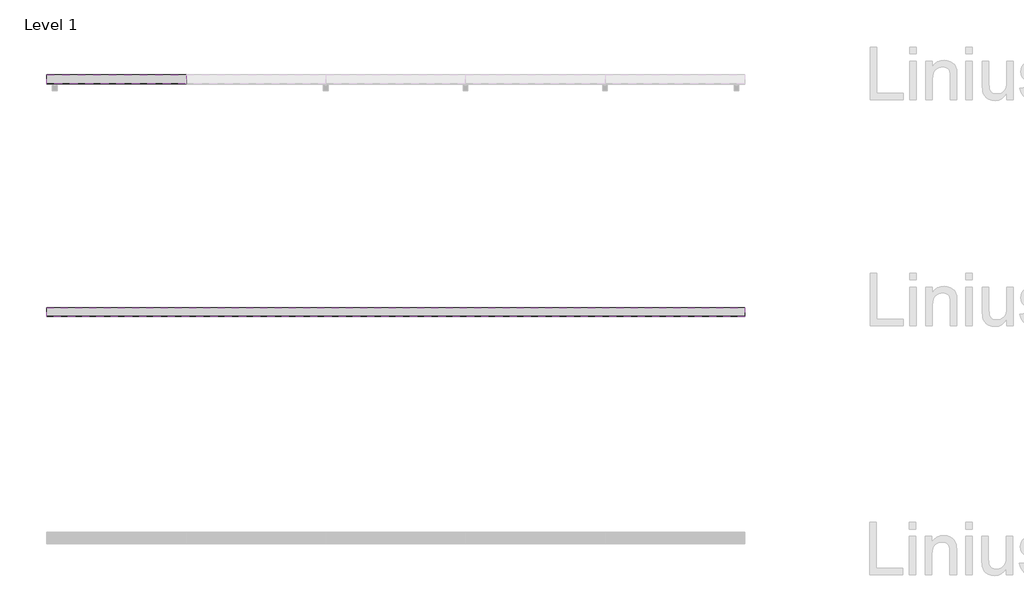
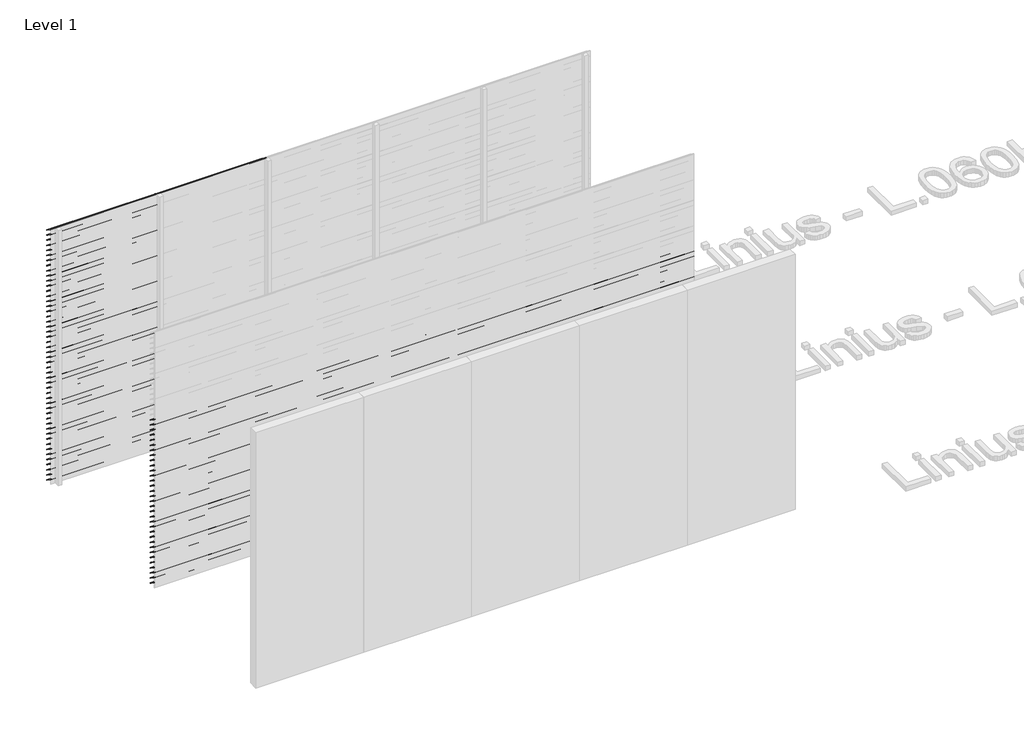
# One storey, part 66 of 153: 85 proxies.
"""IFC4 building model written with IfcOpenShell, lengths in millimetres."""

import ifcopenshell
import ifcopenshell.guid

model = None  # the IFC model being written
_history = None  # IfcOwnerHistory: only IFC2X3 demands one
_inside = {}  # id of a spatial element -> (the spatial element, [elements in it])
_under = {}  # id of a project, library or spatial element -> (it, [spatial elements below it])
_declared = {}  # id of a project -> (the project, [libraries it declares])
_typed = {}  # id of a type object -> (the type object, [elements of that type])
_made_of = {}  # id of a material, layer set ... -> (it, [elements and type objects made of it])


def new_model(schema):
    """Start an empty IFC model of exactly this schema.

    Asked for "IFC4X3", IfcOpenShell would pick the latest addendum, in which some entities
    have other attributes; the version numbers below select the first issue.
    IFC2X3 requires an IfcOwnerHistory on every rooted entity: one is made here for all.
    """
    global model, _history
    if schema == "IFC4X3":
        model = ifcopenshell.file(schema_version=(4, 3, 0, 0))
    else:
        model = ifcopenshell.file(schema=schema)
    _inside.clear()
    _under.clear()
    _declared.clear()
    _typed.clear()
    _made_of.clear()
    _history = None
    if model.schema == "IFC2X3":
        org = make("IfcOrganization", Name="unknown")
        user = make(
            "IfcPersonAndOrganization",
            ThePerson=make("IfcPerson", FamilyName="unknown"),
            TheOrganization=org,
        )
        app = make(
            "IfcApplication",
            ApplicationDeveloper=org,
            Version="unknown",
            ApplicationFullName="unknown",
            ApplicationIdentifier="unknown",
        )
        _history = make(
            "IfcOwnerHistory",
            OwningUser=user,
            OwningApplication=app,
            ChangeAction="ADDED",
            CreationDate=0,
        )
    return model


def make(cls, **values):
    """One entity of the class cls with the attributes given. An attribute that is None is left unset."""
    return model.create_entity(
        cls, **{name: value for name, value in values.items() if value is not None}
    )


def rooted(cls, **values):
    """An entity with a GlobalId (a new one), such as an element, a storey or a relation."""
    return make(cls, GlobalId=ifcopenshell.guid.new(), OwnerHistory=_history, **values)


def si_unit(unit_type, name, prefix=None):
    """IfcSIUnit, for example si_unit("LENGTHUNIT", "METRE", prefix="MILLI")."""
    return make("IfcSIUnit", UnitType=unit_type, Prefix=prefix, Name=name)


def assignment(units):
    """IfcUnitAssignment: the units of a project."""
    return None if units is None else make("IfcUnitAssignment", Units=units)


def point(xyz):
    """IfcCartesianPoint."""
    return None if xyz is None else make("IfcCartesianPoint", Coordinates=xyz)


def direction(xyz):
    """IfcDirection."""
    return None if xyz is None else make("IfcDirection", DirectionRatios=xyz)


def frame(location, z_axis=None, x_axis=None):
    """IfcAxis2Placement3D, a coordinate frame: its origin and axes. An axis left out is left unset."""
    return make(
        "IfcAxis2Placement3D",
        Location=point(location),
        Axis=direction(z_axis),
        RefDirection=direction(x_axis),
    )


def origin():
    """The frame at (0, 0, 0) with its axes left unset."""
    return frame((0.0, 0.0, 0.0))


def place(relative_to, where):
    """IfcLocalPlacement: puts the frame where relative to a parent placement (None: the world)."""
    return make(
        "IfcLocalPlacement", PlacementRelTo=relative_to, RelativePlacement=where
    )


def context(
    kind, dimensions, precision=None, world=None, true_north=None, identifier=None
):
    """IfcGeometricRepresentationContext, for example the 3D "Model" context."""
    return make(
        "IfcGeometricRepresentationContext",
        ContextIdentifier=identifier,
        ContextType=kind,
        CoordinateSpaceDimension=dimensions,
        Precision=precision,
        WorldCoordinateSystem=world,
        TrueNorth=true_north,
    )


def project(units=None, contexts=None):
    """IfcProject with its units and contexts."""
    return rooted(
        "IfcProject",
        Name="project",
        RepresentationContexts=contexts,
        UnitsInContext=assignment(units),
    )


def spatial(cls, under=None, at=None, **own):
    """A site, building, storey or space (cls), placed at a placement, below another one or the project."""
    s = rooted(cls, ObjectPlacement=at, **own)
    if under is not None:
        _under.setdefault(under.id(), (under, []))[1].append(s)
    return s


def polyline(points):
    """IfcPolyline through the points."""
    return make("IfcPolyline", Points=[point(p) for p in points])


def outline(outer, holes=None, kind="AREA"):
    """IfcArbitraryClosedProfileDef: a profile drawn as a closed curve; with holes, ...WithVoids."""
    if holes is None:
        return make("IfcArbitraryClosedProfileDef", ProfileType=kind, OuterCurve=outer)
    return make(
        "IfcArbitraryProfileDefWithVoids",
        ProfileType=kind,
        OuterCurve=outer,
        InnerCurves=holes,
    )


def extrude(swept, where, along, depth):
    """IfcExtrudedAreaSolid: the profile swept, set in the frame where, extruded along a direction by depth."""
    return make(
        "IfcExtrudedAreaSolid",
        SweptArea=swept,
        Position=where,
        ExtrudedDirection=direction(along),
        Depth=depth,
    )


def shape(context_of_items, identifier, shape_type, items):
    """IfcShapeRepresentation: the items that make up one representation, for example the "Body"."""
    return make(
        "IfcShapeRepresentation",
        ContextOfItems=context_of_items,
        RepresentationIdentifier=identifier,
        RepresentationType=shape_type,
        Items=items,
    )


def made_of(thing, what):
    """Note that an element or type object is made of a material, layer set ...; save() writes the relation."""
    if what is not None:
        _made_of.setdefault(what.id(), (what, []))[1].append(thing)
    return thing


def element(
    cls,
    number,
    at=None,
    inside=None,
    cuts=None,
    type_object=None,
    material=None,
    context=None,
    identifier="Body",
    shape_type=None,
    held_by="IfcProductDefinitionShape",
    body=None,
    shapes=None,
    **own,
):
    """One element of the class cls, such as IfcWall. Its Tag is "e" and its number.

    at: its placement. inside: the storey or other place that contains it. cuts: it is an
    opening in that element (IfcRelVoidsElement). A single representation is given by context,
    identifier, shape_type and body (its items); several are given by shapes. held_by: the class
    of the entity that holds the representations. save() writes the other relations.
    """
    e = rooted(cls, Tag="e%d" % number, ObjectPlacement=at, **own)
    if body is not None:
        shapes = [shape(context, identifier, shape_type, body)]
    if shapes is not None:
        e.Representation = make(held_by, Representations=shapes)
    if inside is not None:
        _inside.setdefault(inside.id(), (inside, []))[1].append(e)
    if cuts is not None:
        rooted(
            "IfcRelVoidsElement", RelatingBuildingElement=cuts, RelatedOpeningElement=e
        )
    if type_object is not None:
        _typed.setdefault(type_object.id(), (type_object, []))[1].append(e)
    return made_of(e, material)


def aggregate(whole, parts):
    """IfcRelAggregates: a whole, such as a stair, and the parts it consists of."""
    return rooted("IfcRelAggregates", RelatingObject=whole, RelatedObjects=parts)


def save(model, path):
    """Write the relations noted so far, then the file.

    IfcRelAggregates (storeys below a building ...), IfcRelContainedInSpatialStructure (elements
    in a storey), IfcRelDefinesByType, IfcRelAssociatesMaterial and IfcRelDeclares: one each for
    every whole, place, type object, material and project.
    """
    for whole, parts in _under.values():
        aggregate(whole, parts)
    for where, things in _inside.values():
        rooted(
            "IfcRelContainedInSpatialStructure",
            RelatedElements=things,
            RelatingStructure=where,
        )
    for kind, things in _typed.values():
        rooted("IfcRelDefinesByType", RelatedObjects=things, RelatingType=kind)
    for what, things in _made_of.values():
        rooted("IfcRelAssociatesMaterial", RelatedObjects=things, RelatingMaterial=what)
    for by, libraries in _declared.values():
        rooted("IfcRelDeclares", RelatingContext=by, RelatedDefinitions=libraries)
    model.write(path)


model = new_model("IFC4")

# Units and contexts
model_context = context("Model", 3, world=origin())
ifc_project = project(units=[si_unit("LENGTHUNIT", "METRE", prefix="MILLI")], contexts=[model_context])

# Site, building, storey
site = spatial("IfcSite", under=ifc_project)
building = spatial("IfcBuilding", under=site)
storey = spatial("IfcBuildingStorey", under=building, Name="Level 1", Elevation=0.0)

# Proxies
placement = place(None, origin())
element("IfcBuildingElementProxy", 1, Name="Wall Sweeps", at=placement, inside=storey, context=model_context, shape_type="SweptSolid", body=[
    extrude(outline(polyline([(36561.0540136, 2946.0), (36561.0540136, 2940.0), (36559.8040136, 2940.7216933), (36559.8040136, 2945.2538091), (36483.0540136, 2993.9915103), (36483.0540136, 3000.0), (36484.3040136, 3000.0), (36484.3040136, 2994.7377012), (36561.0540136, 2946.0)])), frame((466.6208097, 0.0, 0.0), z_axis=(1.0, 0.0, 0.0), x_axis=(0.0, 1.0, 0.0)), (0.0, 0.0, 1.0), 1200.0000002),
])
element("IfcBuildingElementProxy", 2, Name="Wall Sweeps", at=placement, inside=storey, context=model_context, shape_type="SweptSolid", body=[
    extrude(outline(polyline([(36561.0540136, 2886.0), (36561.0540136, 2880.0), (36559.8040136, 2880.7216933), (36559.8040136, 2885.2538091), (36483.0540136, 2933.9915103), (36483.0540136, 2940.0), (36484.3040136, 2940.0), (36484.3040136, 2934.7377012), (36561.0540136, 2886.0)])), frame((466.6208097, 0.0, 0.0), z_axis=(1.0, 0.0, 0.0), x_axis=(0.0, 1.0, 0.0)), (0.0, 0.0, 1.0), 1200.0000002),
])
element("IfcBuildingElementProxy", 3, Name="Wall Sweeps", at=placement, inside=storey, context=model_context, shape_type="SweptSolid", body=[
    extrude(outline(polyline([(36561.0540136, 2826.0), (36561.0540136, 2820.0), (36559.8040136, 2820.7216933), (36559.8040136, 2825.2538091), (36483.0540136, 2873.9915103), (36483.0540136, 2880.0), (36484.3040136, 2880.0), (36484.3040136, 2874.7377012), (36561.0540136, 2826.0)])), frame((466.6208097, 0.0, 0.0), z_axis=(1.0, 0.0, 0.0), x_axis=(0.0, 1.0, 0.0)), (0.0, 0.0, 1.0), 1200.0000002),
])
element("IfcBuildingElementProxy", 4, Name="Wall Sweeps", at=placement, inside=storey, context=model_context, shape_type="SweptSolid", body=[
    extrude(outline(polyline([(36561.0540136, 2766.0), (36561.0540136, 2760.0), (36559.8040136, 2760.7216933), (36559.8040136, 2765.2538091), (36483.0540136, 2813.9915103), (36483.0540136, 2820.0), (36484.3040136, 2820.0), (36484.3040136, 2814.7377012), (36561.0540136, 2766.0)])), frame((466.6208097, 0.0, 0.0), z_axis=(1.0, 0.0, 0.0), x_axis=(0.0, 1.0, 0.0)), (0.0, 0.0, 1.0), 1200.0000002),
])
element("IfcBuildingElementProxy", 5, Name="Wall Sweeps", at=placement, inside=storey, context=model_context, shape_type="SweptSolid", body=[
    extrude(outline(polyline([(36561.0540136, 2706.0), (36561.0540136, 2700.0), (36559.8040136, 2700.7216933), (36559.8040136, 2705.2538091), (36483.0540136, 2753.9915103), (36483.0540136, 2760.0), (36484.3040136, 2760.0), (36484.3040136, 2754.7377012), (36561.0540136, 2706.0)])), frame((466.6208097, 0.0, 0.0), z_axis=(1.0, 0.0, 0.0), x_axis=(0.0, 1.0, 0.0)), (0.0, 0.0, 1.0), 1200.0000002),
])
element("IfcBuildingElementProxy", 6, Name="Wall Sweeps", at=placement, inside=storey, context=model_context, shape_type="SweptSolid", body=[
    extrude(outline(polyline([(36561.0540136, 2646.0), (36561.0540136, 2640.0), (36559.8040136, 2640.7216933), (36559.8040136, 2645.2538091), (36483.0540136, 2693.9915103), (36483.0540136, 2700.0), (36484.3040136, 2700.0), (36484.3040136, 2694.7377012), (36561.0540136, 2646.0)])), frame((466.6208097, 0.0, 0.0), z_axis=(1.0, 0.0, 0.0), x_axis=(0.0, 1.0, 0.0)), (0.0, 0.0, 1.0), 1200.0000002),
])
element("IfcBuildingElementProxy", 7, Name="Wall Sweeps", at=placement, inside=storey, context=model_context, shape_type="SweptSolid", body=[
    extrude(outline(polyline([(36561.0540136, 2586.0), (36561.0540136, 2580.0), (36559.8040136, 2580.7216933), (36559.8040136, 2585.2538091), (36483.0540136, 2633.9915103), (36483.0540136, 2640.0), (36484.3040136, 2640.0), (36484.3040136, 2634.7377012), (36561.0540136, 2586.0)])), frame((466.6208097, 0.0, 0.0), z_axis=(1.0, 0.0, 0.0), x_axis=(0.0, 1.0, 0.0)), (0.0, 0.0, 1.0), 1200.0000002),
])
element("IfcBuildingElementProxy", 8, Name="Wall Sweeps", at=placement, inside=storey, context=model_context, shape_type="SweptSolid", body=[
    extrude(outline(polyline([(36561.0540136, 2526.0), (36561.0540136, 2520.0), (36559.8040136, 2520.7216933), (36559.8040136, 2525.2538091), (36483.0540136, 2573.9915103), (36483.0540136, 2580.0), (36484.3040136, 2580.0), (36484.3040136, 2574.7377012), (36561.0540136, 2526.0)])), frame((466.6208097, 0.0, 0.0), z_axis=(1.0, 0.0, 0.0), x_axis=(0.0, 1.0, 0.0)), (0.0, 0.0, 1.0), 1200.0000002),
])
element("IfcBuildingElementProxy", 9, Name="Wall Sweeps", at=placement, inside=storey, context=model_context, shape_type="SweptSolid", body=[
    extrude(outline(polyline([(36561.0540136, 2466.0), (36561.0540136, 2460.0), (36559.8040136, 2460.7216933), (36559.8040136, 2465.2538091), (36483.0540136, 2513.9915103), (36483.0540136, 2520.0), (36484.3040136, 2520.0), (36484.3040136, 2514.7377012), (36561.0540136, 2466.0)])), frame((466.6208097, 0.0, 0.0), z_axis=(1.0, 0.0, 0.0), x_axis=(0.0, 1.0, 0.0)), (0.0, 0.0, 1.0), 1200.0000002),
])
element("IfcBuildingElementProxy", 10, Name="Wall Sweeps", at=placement, inside=storey, context=model_context, shape_type="SweptSolid", body=[
    extrude(outline(polyline([(36561.0540136, 2406.0), (36561.0540136, 2400.0), (36559.8040136, 2400.7216933), (36559.8040136, 2405.2538091), (36483.0540136, 2453.9915103), (36483.0540136, 2460.0), (36484.3040136, 2460.0), (36484.3040136, 2454.7377012), (36561.0540136, 2406.0)])), frame((466.6208097, 0.0, 0.0), z_axis=(1.0, 0.0, 0.0), x_axis=(0.0, 1.0, 0.0)), (0.0, 0.0, 1.0), 1200.0000002),
])
element("IfcBuildingElementProxy", 11, Name="Wall Sweeps", at=placement, inside=storey, context=model_context, shape_type="SweptSolid", body=[
    extrude(outline(polyline([(36561.0540136, 2346.0), (36561.0540136, 2340.0), (36559.8040136, 2340.7216933), (36559.8040136, 2345.2538091), (36483.0540136, 2393.9915103), (36483.0540136, 2400.0), (36484.3040136, 2400.0), (36484.3040136, 2394.7377012), (36561.0540136, 2346.0)])), frame((466.6208097, 0.0, 0.0), z_axis=(1.0, 0.0, 0.0), x_axis=(0.0, 1.0, 0.0)), (0.0, 0.0, 1.0), 1200.0000002),
])
element("IfcBuildingElementProxy", 12, Name="Wall Sweeps", at=placement, inside=storey, context=model_context, shape_type="SweptSolid", body=[
    extrude(outline(polyline([(36561.0540136, 2286.0), (36561.0540136, 2280.0), (36559.8040136, 2280.7216933), (36559.8040136, 2285.2538091), (36483.0540136, 2333.9915103), (36483.0540136, 2340.0), (36484.3040136, 2340.0), (36484.3040136, 2334.7377012), (36561.0540136, 2286.0)])), frame((466.6208097, 0.0, 0.0), z_axis=(1.0, 0.0, 0.0), x_axis=(0.0, 1.0, 0.0)), (0.0, 0.0, 1.0), 1200.0000002),
])
element("IfcBuildingElementProxy", 13, Name="Wall Sweeps", at=placement, inside=storey, context=model_context, shape_type="SweptSolid", body=[
    extrude(outline(polyline([(36561.0540136, 2226.0), (36561.0540136, 2220.0), (36559.8040136, 2220.7216933), (36559.8040136, 2225.2538091), (36483.0540136, 2273.9915103), (36483.0540136, 2280.0), (36484.3040136, 2280.0), (36484.3040136, 2274.7377012), (36561.0540136, 2226.0)])), frame((466.6208097, 0.0, 0.0), z_axis=(1.0, 0.0, 0.0), x_axis=(0.0, 1.0, 0.0)), (0.0, 0.0, 1.0), 1200.0000002),
])
element("IfcBuildingElementProxy", 14, Name="Wall Sweeps", at=placement, inside=storey, context=model_context, shape_type="SweptSolid", body=[
    extrude(outline(polyline([(36561.0540136, 2166.0), (36561.0540136, 2160.0), (36559.8040136, 2160.7216933), (36559.8040136, 2165.2538091), (36483.0540136, 2213.9915103), (36483.0540136, 2220.0), (36484.3040136, 2220.0), (36484.3040136, 2214.7377012), (36561.0540136, 2166.0)])), frame((466.6208097, 0.0, 0.0), z_axis=(1.0, 0.0, 0.0), x_axis=(0.0, 1.0, 0.0)), (0.0, 0.0, 1.0), 1200.0000002),
])
element("IfcBuildingElementProxy", 15, Name="Wall Sweeps", at=placement, inside=storey, context=model_context, shape_type="SweptSolid", body=[
    extrude(outline(polyline([(36561.0540136, 2106.0), (36561.0540136, 2100.0), (36559.8040136, 2100.7216933), (36559.8040136, 2105.2538091), (36483.0540136, 2153.9915103), (36483.0540136, 2160.0), (36484.3040136, 2160.0), (36484.3040136, 2154.7377012), (36561.0540136, 2106.0)])), frame((466.6208097, 0.0, 0.0), z_axis=(1.0, 0.0, 0.0), x_axis=(0.0, 1.0, 0.0)), (0.0, 0.0, 1.0), 1200.0000002),
])
element("IfcBuildingElementProxy", 16, Name="Wall Sweeps", at=placement, inside=storey, context=model_context, shape_type="SweptSolid", body=[
    extrude(outline(polyline([(36561.0540136, 2046.0), (36561.0540136, 2040.0), (36559.8040136, 2040.7216933), (36559.8040136, 2045.2538091), (36483.0540136, 2093.9915103), (36483.0540136, 2100.0), (36484.3040136, 2100.0), (36484.3040136, 2094.7377012), (36561.0540136, 2046.0)])), frame((466.6208097, 0.0, 0.0), z_axis=(1.0, 0.0, 0.0), x_axis=(0.0, 1.0, 0.0)), (0.0, 0.0, 1.0), 1200.0000002),
])
element("IfcBuildingElementProxy", 17, Name="Wall Sweeps", at=placement, inside=storey, context=model_context, shape_type="SweptSolid", body=[
    extrude(outline(polyline([(36561.0540136, 1986.0), (36561.0540136, 1980.0), (36559.8040136, 1980.7216933), (36559.8040136, 1985.2538091), (36483.0540136, 2033.9915103), (36483.0540136, 2040.0), (36484.3040136, 2040.0), (36484.3040136, 2034.7377012), (36561.0540136, 1986.0)])), frame((466.6208097, 0.0, 0.0), z_axis=(1.0, 0.0, 0.0), x_axis=(0.0, 1.0, 0.0)), (0.0, 0.0, 1.0), 1200.0000002),
])
element("IfcBuildingElementProxy", 18, Name="Wall Sweeps", at=placement, inside=storey, context=model_context, shape_type="SweptSolid", body=[
    extrude(outline(polyline([(36561.0540136, 1926.0), (36561.0540136, 1920.0), (36559.8040136, 1920.7216933), (36559.8040136, 1925.2538091), (36483.0540136, 1973.9915103), (36483.0540136, 1980.0), (36484.3040136, 1980.0), (36484.3040136, 1974.7377012), (36561.0540136, 1926.0)])), frame((466.6208097, 0.0, 0.0), z_axis=(1.0, 0.0, 0.0), x_axis=(0.0, 1.0, 0.0)), (0.0, 0.0, 1.0), 1200.0000002),
])
element("IfcBuildingElementProxy", 19, Name="Wall Sweeps", at=placement, inside=storey, context=model_context, shape_type="SweptSolid", body=[
    extrude(outline(polyline([(36561.0540136, 1866.0), (36561.0540136, 1860.0), (36559.8040136, 1860.7216933), (36559.8040136, 1865.2538091), (36483.0540136, 1913.9915103), (36483.0540136, 1920.0), (36484.3040136, 1920.0), (36484.3040136, 1914.7377012), (36561.0540136, 1866.0)])), frame((466.6208097, 0.0, 0.0), z_axis=(1.0, 0.0, 0.0), x_axis=(0.0, 1.0, 0.0)), (0.0, 0.0, 1.0), 1200.0000002),
])
element("IfcBuildingElementProxy", 20, Name="Wall Sweeps", at=placement, inside=storey, context=model_context, shape_type="SweptSolid", body=[
    extrude(outline(polyline([(36561.0540136, 1806.0), (36561.0540136, 1800.0), (36559.8040136, 1800.7216933), (36559.8040136, 1805.2538091), (36483.0540136, 1853.9915103), (36483.0540136, 1860.0), (36484.3040136, 1860.0), (36484.3040136, 1854.7377012), (36561.0540136, 1806.0)])), frame((466.6208097, 0.0, 0.0), z_axis=(1.0, 0.0, 0.0), x_axis=(0.0, 1.0, 0.0)), (0.0, 0.0, 1.0), 1200.0000002),
])
element("IfcBuildingElementProxy", 21, Name="Wall Sweeps", at=placement, inside=storey, context=model_context, shape_type="SweptSolid", body=[
    extrude(outline(polyline([(36561.0540136, 1746.0), (36561.0540136, 1740.0), (36559.8040136, 1740.7216933), (36559.8040136, 1745.2538091), (36483.0540136, 1793.9915103), (36483.0540136, 1800.0), (36484.3040136, 1800.0), (36484.3040136, 1794.7377012), (36561.0540136, 1746.0)])), frame((466.6208097, 0.0, 0.0), z_axis=(1.0, 0.0, 0.0), x_axis=(0.0, 1.0, 0.0)), (0.0, 0.0, 1.0), 1200.0000002),
])
element("IfcBuildingElementProxy", 22, Name="Wall Sweeps", at=placement, inside=storey, context=model_context, shape_type="SweptSolid", body=[
    extrude(outline(polyline([(36561.0540136, 1686.0), (36561.0540136, 1680.0), (36559.8040136, 1680.7216933), (36559.8040136, 1685.2538091), (36483.0540136, 1733.9915103), (36483.0540136, 1740.0), (36484.3040136, 1740.0), (36484.3040136, 1734.7377012), (36561.0540136, 1686.0)])), frame((466.6208097, 0.0, 0.0), z_axis=(1.0, 0.0, 0.0), x_axis=(0.0, 1.0, 0.0)), (0.0, 0.0, 1.0), 1200.0000002),
])
element("IfcBuildingElementProxy", 23, Name="Wall Sweeps", at=placement, inside=storey, context=model_context, shape_type="SweptSolid", body=[
    extrude(outline(polyline([(36561.0540136, 1626.0), (36561.0540136, 1620.0), (36559.8040136, 1620.7216933), (36559.8040136, 1625.2538091), (36483.0540136, 1673.9915103), (36483.0540136, 1680.0), (36484.3040136, 1680.0), (36484.3040136, 1674.7377012), (36561.0540136, 1626.0)])), frame((466.6208097, 0.0, 0.0), z_axis=(1.0, 0.0, 0.0), x_axis=(0.0, 1.0, 0.0)), (0.0, 0.0, 1.0), 1200.0000002),
])
element("IfcBuildingElementProxy", 24, Name="Wall Sweeps", at=placement, inside=storey, context=model_context, shape_type="SweptSolid", body=[
    extrude(outline(polyline([(36561.0540136, 1566.0), (36561.0540136, 1560.0), (36559.8040136, 1560.7216933), (36559.8040136, 1565.2538091), (36483.0540136, 1613.9915103), (36483.0540136, 1620.0), (36484.3040136, 1620.0), (36484.3040136, 1614.7377012), (36561.0540136, 1566.0)])), frame((466.6208097, 0.0, 0.0), z_axis=(1.0, 0.0, 0.0), x_axis=(0.0, 1.0, 0.0)), (0.0, 0.0, 1.0), 1200.0000002),
])
element("IfcBuildingElementProxy", 25, Name="Wall Sweeps", at=placement, inside=storey, context=model_context, shape_type="SweptSolid", body=[
    extrude(outline(polyline([(36561.0540136, 1506.0), (36561.0540136, 1500.0), (36559.8040136, 1500.7216933), (36559.8040136, 1505.2538091), (36483.0540136, 1553.9915103), (36483.0540136, 1560.0), (36484.3040136, 1560.0), (36484.3040136, 1554.7377012), (36561.0540136, 1506.0)])), frame((466.6208097, 0.0, 0.0), z_axis=(1.0, 0.0, 0.0), x_axis=(0.0, 1.0, 0.0)), (0.0, 0.0, 1.0), 1200.0000002),
])
element("IfcBuildingElementProxy", 26, Name="Wall Sweeps", at=placement, inside=storey, context=model_context, shape_type="SweptSolid", body=[
    extrude(outline(polyline([(36561.0540136, 1446.0), (36561.0540136, 1440.0), (36559.8040136, 1440.7216933), (36559.8040136, 1445.2538091), (36483.0540136, 1493.9915103), (36483.0540136, 1500.0), (36484.3040136, 1500.0), (36484.3040136, 1494.7377012), (36561.0540136, 1446.0)])), frame((466.6208097, 0.0, 0.0), z_axis=(1.0, 0.0, 0.0), x_axis=(0.0, 1.0, 0.0)), (0.0, 0.0, 1.0), 1200.0000002),
])
element("IfcBuildingElementProxy", 27, Name="Wall Sweeps", at=placement, inside=storey, context=model_context, shape_type="SweptSolid", body=[
    extrude(outline(polyline([(36561.0540136, 1386.0), (36561.0540136, 1380.0), (36559.8040136, 1380.7216933), (36559.8040136, 1385.2538091), (36483.0540136, 1433.9915103), (36483.0540136, 1440.0), (36484.3040136, 1440.0), (36484.3040136, 1434.7377012), (36561.0540136, 1386.0)])), frame((466.6208097, 0.0, 0.0), z_axis=(1.0, 0.0, 0.0), x_axis=(0.0, 1.0, 0.0)), (0.0, 0.0, 1.0), 1200.0000002),
])
element("IfcBuildingElementProxy", 28, Name="Wall Sweeps", at=placement, inside=storey, context=model_context, shape_type="SweptSolid", body=[
    extrude(outline(polyline([(36561.0540136, 1326.0), (36561.0540136, 1320.0), (36559.8040136, 1320.7216933), (36559.8040136, 1325.2538091), (36483.0540136, 1373.9915103), (36483.0540136, 1380.0), (36484.3040136, 1380.0), (36484.3040136, 1374.7377012), (36561.0540136, 1326.0)])), frame((466.6208097, 0.0, 0.0), z_axis=(1.0, 0.0, 0.0), x_axis=(0.0, 1.0, 0.0)), (0.0, 0.0, 1.0), 1200.0000002),
])
element("IfcBuildingElementProxy", 29, Name="Wall Sweeps", at=placement, inside=storey, context=model_context, shape_type="SweptSolid", body=[
    extrude(outline(polyline([(36561.0540136, 1266.0), (36561.0540136, 1260.0), (36559.8040136, 1260.7216933), (36559.8040136, 1265.2538091), (36483.0540136, 1313.9915103), (36483.0540136, 1320.0), (36484.3040136, 1320.0), (36484.3040136, 1314.7377012), (36561.0540136, 1266.0)])), frame((466.6208097, 0.0, 0.0), z_axis=(1.0, 0.0, 0.0), x_axis=(0.0, 1.0, 0.0)), (0.0, 0.0, 1.0), 1200.0000002),
])
element("IfcBuildingElementProxy", 30, Name="Wall Sweeps", at=placement, inside=storey, context=model_context, shape_type="SweptSolid", body=[
    extrude(outline(polyline([(36561.0540136, 1206.0), (36561.0540136, 1200.0), (36559.8040136, 1200.7216933), (36559.8040136, 1205.2538091), (36483.0540136, 1253.9915103), (36483.0540136, 1260.0), (36484.3040136, 1260.0), (36484.3040136, 1254.7377012), (36561.0540136, 1206.0)])), frame((466.6208097, 0.0, 0.0), z_axis=(1.0, 0.0, 0.0), x_axis=(0.0, 1.0, 0.0)), (0.0, 0.0, 1.0), 1200.0000002),
])
element("IfcBuildingElementProxy", 31, Name="Wall Sweeps", at=placement, inside=storey, context=model_context, shape_type="SweptSolid", body=[
    extrude(outline(polyline([(36561.0540136, 1146.0), (36561.0540136, 1140.0), (36559.8040136, 1140.7216933), (36559.8040136, 1145.2538091), (36483.0540136, 1193.9915103), (36483.0540136, 1200.0), (36484.3040136, 1200.0), (36484.3040136, 1194.7377012), (36561.0540136, 1146.0)])), frame((466.6208097, 0.0, 0.0), z_axis=(1.0, 0.0, 0.0), x_axis=(0.0, 1.0, 0.0)), (0.0, 0.0, 1.0), 1200.0000002),
])
element("IfcBuildingElementProxy", 32, Name="Wall Sweeps", at=placement, inside=storey, context=model_context, shape_type="SweptSolid", body=[
    extrude(outline(polyline([(36561.0540136, 1086.0), (36561.0540136, 1080.0), (36559.8040136, 1080.7216933), (36559.8040136, 1085.2538091), (36483.0540136, 1133.9915103), (36483.0540136, 1140.0), (36484.3040136, 1140.0), (36484.3040136, 1134.7377012), (36561.0540136, 1086.0)])), frame((466.6208097, 0.0, 0.0), z_axis=(1.0, 0.0, 0.0), x_axis=(0.0, 1.0, 0.0)), (0.0, 0.0, 1.0), 1200.0000002),
])
element("IfcBuildingElementProxy", 33, Name="Wall Sweeps", at=placement, inside=storey, context=model_context, shape_type="SweptSolid", body=[
    extrude(outline(polyline([(36561.0540136, 1026.0), (36561.0540136, 1020.0), (36559.8040136, 1020.7216933), (36559.8040136, 1025.2538091), (36483.0540136, 1073.9915103), (36483.0540136, 1080.0), (36484.3040136, 1080.0), (36484.3040136, 1074.7377012), (36561.0540136, 1026.0)])), frame((466.6208097, 0.0, 0.0), z_axis=(1.0, 0.0, 0.0), x_axis=(0.0, 1.0, 0.0)), (0.0, 0.0, 1.0), 1200.0000002),
])
element("IfcBuildingElementProxy", 34, Name="Wall Sweeps", at=placement, inside=storey, context=model_context, shape_type="SweptSolid", body=[
    extrude(outline(polyline([(36561.0540136, 966.0), (36561.0540136, 960.0), (36559.8040136, 960.7216933), (36559.8040136, 965.2538091), (36483.0540136, 1013.9915103), (36483.0540136, 1020.0), (36484.3040136, 1020.0), (36484.3040136, 1014.7377012), (36561.0540136, 966.0)])), frame((466.6208097, 0.0, 0.0), z_axis=(1.0, 0.0, 0.0), x_axis=(0.0, 1.0, 0.0)), (0.0, 0.0, 1.0), 1200.0000002),
])
element("IfcBuildingElementProxy", 35, Name="Wall Sweeps", at=placement, inside=storey, context=model_context, shape_type="SweptSolid", body=[
    extrude(outline(polyline([(36561.0540136, 906.0), (36561.0540136, 900.0), (36559.8040136, 900.7216933), (36559.8040136, 905.2538091), (36483.0540136, 953.9915103), (36483.0540136, 960.0), (36484.3040136, 960.0), (36484.3040136, 954.7377012), (36561.0540136, 906.0)])), frame((466.6208097, 0.0, 0.0), z_axis=(1.0, 0.0, 0.0), x_axis=(0.0, 1.0, 0.0)), (0.0, 0.0, 1.0), 1200.0000002),
])
element("IfcBuildingElementProxy", 36, Name="Wall Sweeps", at=placement, inside=storey, context=model_context, shape_type="SweptSolid", body=[
    extrude(outline(polyline([(36561.0540136, 846.0), (36561.0540136, 840.0), (36559.8040136, 840.7216933), (36559.8040136, 845.2538091), (36483.0540136, 893.9915103), (36483.0540136, 900.0), (36484.3040136, 900.0), (36484.3040136, 894.7377012), (36561.0540136, 846.0)])), frame((466.6208097, 0.0, 0.0), z_axis=(1.0, 0.0, 0.0), x_axis=(0.0, 1.0, 0.0)), (0.0, 0.0, 1.0), 1200.0000002),
])
element("IfcBuildingElementProxy", 37, Name="Wall Sweeps", at=placement, inside=storey, context=model_context, shape_type="SweptSolid", body=[
    extrude(outline(polyline([(36561.0540136, 786.0), (36561.0540136, 780.0), (36559.8040136, 780.7216933), (36559.8040136, 785.2538091), (36483.0540136, 833.9915103), (36483.0540136, 840.0), (36484.3040136, 840.0), (36484.3040136, 834.7377012), (36561.0540136, 786.0)])), frame((466.6208097, 0.0, 0.0), z_axis=(1.0, 0.0, 0.0), x_axis=(0.0, 1.0, 0.0)), (0.0, 0.0, 1.0), 1200.0000002),
])
element("IfcBuildingElementProxy", 38, Name="Wall Sweeps", at=placement, inside=storey, context=model_context, shape_type="SweptSolid", body=[
    extrude(outline(polyline([(36561.0540136, 726.0), (36561.0540136, 720.0), (36559.8040136, 720.7216933), (36559.8040136, 725.2538091), (36483.0540136, 773.9915103), (36483.0540136, 780.0), (36484.3040136, 780.0), (36484.3040136, 774.7377012), (36561.0540136, 726.0)])), frame((466.6208097, 0.0, 0.0), z_axis=(1.0, 0.0, 0.0), x_axis=(0.0, 1.0, 0.0)), (0.0, 0.0, 1.0), 1200.0000002),
])
element("IfcBuildingElementProxy", 39, Name="Wall Sweeps", at=placement, inside=storey, context=model_context, shape_type="SweptSolid", body=[
    extrude(outline(polyline([(36561.0540136, 666.0), (36561.0540136, 660.0), (36559.8040136, 660.7216933), (36559.8040136, 665.2538091), (36483.0540136, 713.9915103), (36483.0540136, 720.0), (36484.3040136, 720.0), (36484.3040136, 714.7377012), (36561.0540136, 666.0)])), frame((466.6208097, 0.0, 0.0), z_axis=(1.0, 0.0, 0.0), x_axis=(0.0, 1.0, 0.0)), (0.0, 0.0, 1.0), 1200.0000002),
])
element("IfcBuildingElementProxy", 40, Name="Wall Sweeps", at=placement, inside=storey, context=model_context, shape_type="SweptSolid", body=[
    extrude(outline(polyline([(36561.0540136, 606.0), (36561.0540136, 600.0), (36559.8040136, 600.7216933), (36559.8040136, 605.2538091), (36483.0540136, 653.9915103), (36483.0540136, 660.0), (36484.3040136, 660.0), (36484.3040136, 654.7377012), (36561.0540136, 606.0)])), frame((466.6208097, 0.0, 0.0), z_axis=(1.0, 0.0, 0.0), x_axis=(0.0, 1.0, 0.0)), (0.0, 0.0, 1.0), 1200.0000002),
])
element("IfcBuildingElementProxy", 41, Name="Wall Sweeps", at=placement, inside=storey, context=model_context, shape_type="SweptSolid", body=[
    extrude(outline(polyline([(36561.0540136, 546.0), (36561.0540136, 540.0), (36559.8040136, 540.7216933), (36559.8040136, 545.2538091), (36483.0540136, 593.9915103), (36483.0540136, 600.0), (36484.3040136, 600.0), (36484.3040136, 594.7377012), (36561.0540136, 546.0)])), frame((466.6208097, 0.0, 0.0), z_axis=(1.0, 0.0, 0.0), x_axis=(0.0, 1.0, 0.0)), (0.0, 0.0, 1.0), 1200.0000002),
])
element("IfcBuildingElementProxy", 42, Name="Wall Sweeps", at=placement, inside=storey, context=model_context, shape_type="SweptSolid", body=[
    extrude(outline(polyline([(36561.0540136, 486.0), (36561.0540136, 480.0), (36559.8040136, 480.7216933), (36559.8040136, 485.2538091), (36483.0540136, 533.9915103), (36483.0540136, 540.0), (36484.3040136, 540.0), (36484.3040136, 534.7377012), (36561.0540136, 486.0)])), frame((466.6208097, 0.0, 0.0), z_axis=(1.0, 0.0, 0.0), x_axis=(0.0, 1.0, 0.0)), (0.0, 0.0, 1.0), 1200.0000002),
])
element("IfcBuildingElementProxy", 43, Name="Wall Sweeps", at=placement, inside=storey, context=model_context, shape_type="SweptSolid", body=[
    extrude(outline(polyline([(36561.0540136, 426.0), (36561.0540136, 420.0), (36559.8040136, 420.7216933), (36559.8040136, 425.2538091), (36483.0540136, 473.9915103), (36483.0540136, 480.0), (36484.3040136, 480.0), (36484.3040136, 474.7377012), (36561.0540136, 426.0)])), frame((466.6208097, 0.0, 0.0), z_axis=(1.0, 0.0, 0.0), x_axis=(0.0, 1.0, 0.0)), (0.0, 0.0, 1.0), 1200.0000002),
])
element("IfcBuildingElementProxy", 44, Name="Wall Sweeps", at=placement, inside=storey, context=model_context, shape_type="SweptSolid", body=[
    extrude(outline(polyline([(36561.0540136, 366.0), (36561.0540136, 360.0), (36559.8040136, 360.7216933), (36559.8040136, 365.2538091), (36483.0540136, 413.9915103), (36483.0540136, 420.0), (36484.3040136, 420.0), (36484.3040136, 414.7377012), (36561.0540136, 366.0)])), frame((466.6208097, 0.0, 0.0), z_axis=(1.0, 0.0, 0.0), x_axis=(0.0, 1.0, 0.0)), (0.0, 0.0, 1.0), 1200.0000002),
])
element("IfcBuildingElementProxy", 45, Name="Wall Sweeps", at=placement, inside=storey, context=model_context, shape_type="SweptSolid", body=[
    extrude(outline(polyline([(36561.0540136, 306.0), (36561.0540136, 300.0), (36559.8040136, 300.7216933), (36559.8040136, 305.2538091), (36483.0540136, 353.9915103), (36483.0540136, 360.0), (36484.3040136, 360.0), (36484.3040136, 354.7377012), (36561.0540136, 306.0)])), frame((466.6208097, 0.0, 0.0), z_axis=(1.0, 0.0, 0.0), x_axis=(0.0, 1.0, 0.0)), (0.0, 0.0, 1.0), 1200.0000002),
])
element("IfcBuildingElementProxy", 46, Name="Wall Sweeps", at=placement, inside=storey, context=model_context, shape_type="SweptSolid", body=[
    extrude(outline(polyline([(36561.0540136, 246.0), (36561.0540136, 240.0), (36559.8040136, 240.7216933), (36559.8040136, 245.2538091), (36483.0540136, 293.9915103), (36483.0540136, 300.0), (36484.3040136, 300.0), (36484.3040136, 294.7377012), (36561.0540136, 246.0)])), frame((466.6208097, 0.0, 0.0), z_axis=(1.0, 0.0, 0.0), x_axis=(0.0, 1.0, 0.0)), (0.0, 0.0, 1.0), 1200.0000002),
])
element("IfcBuildingElementProxy", 47, Name="Wall Sweeps", at=placement, inside=storey, context=model_context, shape_type="SweptSolid", body=[
    extrude(outline(polyline([(36561.0540136, 186.0), (36561.0540136, 180.0), (36559.8040136, 180.7216933), (36559.8040136, 185.2538091), (36483.0540136, 233.9915103), (36483.0540136, 240.0), (36484.3040136, 240.0), (36484.3040136, 234.7377012), (36561.0540136, 186.0)])), frame((466.6208097, 0.0, 0.0), z_axis=(1.0, 0.0, 0.0), x_axis=(0.0, 1.0, 0.0)), (0.0, 0.0, 1.0), 1200.0000002),
])
element("IfcBuildingElementProxy", 48, Name="Wall Sweeps", at=placement, inside=storey, context=model_context, shape_type="SweptSolid", body=[
    extrude(outline(polyline([(36561.0540136, 126.0), (36561.0540136, 120.0), (36559.8040136, 120.7216933), (36559.8040136, 125.2538091), (36483.0540136, 173.9915103), (36483.0540136, 180.0), (36484.3040136, 180.0), (36484.3040136, 174.7377012), (36561.0540136, 126.0)])), frame((466.6208097, 0.0, 0.0), z_axis=(1.0, 0.0, 0.0), x_axis=(0.0, 1.0, 0.0)), (0.0, 0.0, 1.0), 1200.0000002),
])
element("IfcBuildingElementProxy", 49, Name="Wall Sweeps", at=placement, inside=storey, context=model_context, shape_type="SweptSolid", body=[
    extrude(outline(polyline([(36561.0540136, 66.0), (36561.0540136, 60.0), (36559.8040136, 60.7216933), (36559.8040136, 65.2538091), (36483.0540136, 113.9915103), (36483.0540136, 120.0), (36484.3040136, 120.0), (36484.3040136, 114.7377012), (36561.0540136, 66.0)])), frame((466.6208097, 0.0, 0.0), z_axis=(1.0, 0.0, 0.0), x_axis=(0.0, 1.0, 0.0)), (0.0, 0.0, 1.0), 1200.0000002),
])
element("IfcBuildingElementProxy", 50, Name="Wall Sweeps", at=placement, inside=storey, context=model_context, shape_type="SweptSolid", body=[
    extrude(outline(polyline([(36561.0540136, 6.0), (36561.0540136, 0.0), (36559.8040136, 0.7216933), (36559.8040136, 5.2538091), (36483.0540136, 53.9915103), (36483.0540136, 60.0), (36484.3040136, 60.0), (36484.3040136, 54.7377012), (36561.0540136, 6.0)])), frame((466.6208097, 0.0, 0.0), z_axis=(1.0, 0.0, 0.0), x_axis=(0.0, 1.0, 0.0)), (0.0, 0.0, 1.0), 1200.0000002),
])
element("IfcBuildingElementProxy", 51, Name="Wall Sweeps", at=placement, inside=storey, context=model_context, shape_type="SweptSolid", body=[
    extrude(outline(polyline([(36561.0540136, 2946.0), (36561.0540136, 2940.0), (36559.8040136, 2940.7216933), (36559.8040136, 2945.2538091), (36483.0540136, 2993.9915103), (36483.0540136, 3000.0), (36484.3040136, 3000.0), (36484.3040136, 2994.7377012), (36561.0540136, 2946.0)])), frame((1666.6208099, 0.0, 0.0), z_axis=(1.0, 0.0, 0.0), x_axis=(0.0, 1.0, 0.0)), (0.0, 0.0, 1.0), 1199.9999999),
])
element("IfcBuildingElementProxy", 52, Name="Wall Sweeps", at=placement, inside=storey, context=model_context, shape_type="SweptSolid", body=[
    extrude(outline(polyline([(36561.0540136, 2886.0), (36561.0540136, 2880.0), (36559.8040136, 2880.7216933), (36559.8040136, 2885.2538091), (36483.0540136, 2933.9915103), (36483.0540136, 2940.0), (36484.3040136, 2940.0), (36484.3040136, 2934.7377012), (36561.0540136, 2886.0)])), frame((1666.6208099, 0.0, 0.0), z_axis=(1.0, 0.0, 0.0), x_axis=(0.0, 1.0, 0.0)), (0.0, 0.0, 1.0), 1199.9999999),
])
element("IfcBuildingElementProxy", 53, Name="Wall Sweeps", at=placement, inside=storey, context=model_context, shape_type="SweptSolid", body=[
    extrude(outline(polyline([(34561.0540136, 1926.0), (34561.0540136, 1920.0), (34559.8040136, 1920.7216933), (34559.8040136, 1925.2538091), (34483.0540136, 1973.9915103), (34483.0540136, 1980.0), (34484.3040136, 1980.0), (34484.3040136, 1974.7377012), (34561.0540136, 1926.0)])), frame((466.6208097, 0.0, 0.0), z_axis=(1.0, 0.0, 0.0), x_axis=(0.0, 1.0, 0.0)), (0.0, 0.0, 1.0), 6000.0),
])
element("IfcBuildingElementProxy", 54, Name="Wall Sweeps", at=placement, inside=storey, context=model_context, shape_type="SweptSolid", body=[
    extrude(outline(polyline([(34561.0540136, 1866.0), (34561.0540136, 1860.0), (34559.8040136, 1860.7216933), (34559.8040136, 1865.2538091), (34483.0540136, 1913.9915103), (34483.0540136, 1920.0), (34484.3040136, 1920.0), (34484.3040136, 1914.7377012), (34561.0540136, 1866.0)])), frame((466.6208097, 0.0, 0.0), z_axis=(1.0, 0.0, 0.0), x_axis=(0.0, 1.0, 0.0)), (0.0, 0.0, 1.0), 6000.0),
])
element("IfcBuildingElementProxy", 55, Name="Wall Sweeps", at=placement, inside=storey, context=model_context, shape_type="SweptSolid", body=[
    extrude(outline(polyline([(34561.0540136, 1806.0), (34561.0540136, 1800.0), (34559.8040136, 1800.7216933), (34559.8040136, 1805.2538091), (34483.0540136, 1853.9915103), (34483.0540136, 1860.0), (34484.3040136, 1860.0), (34484.3040136, 1854.7377012), (34561.0540136, 1806.0)])), frame((466.6208097, 0.0, 0.0), z_axis=(1.0, 0.0, 0.0), x_axis=(0.0, 1.0, 0.0)), (0.0, 0.0, 1.0), 6000.0),
])
element("IfcBuildingElementProxy", 56, Name="Wall Sweeps", at=placement, inside=storey, context=model_context, shape_type="SweptSolid", body=[
    extrude(outline(polyline([(34561.0540136, 1746.0), (34561.0540136, 1740.0), (34559.8040136, 1740.7216933), (34559.8040136, 1745.2538091), (34483.0540136, 1793.9915103), (34483.0540136, 1800.0), (34484.3040136, 1800.0), (34484.3040136, 1794.7377012), (34561.0540136, 1746.0)])), frame((466.6208097, 0.0, 0.0), z_axis=(1.0, 0.0, 0.0), x_axis=(0.0, 1.0, 0.0)), (0.0, 0.0, 1.0), 6000.0),
])
element("IfcBuildingElementProxy", 57, Name="Wall Sweeps", at=placement, inside=storey, context=model_context, shape_type="SweptSolid", body=[
    extrude(outline(polyline([(34561.0540136, 1686.0), (34561.0540136, 1680.0), (34559.8040136, 1680.7216933), (34559.8040136, 1685.2538091), (34483.0540136, 1733.9915103), (34483.0540136, 1740.0), (34484.3040136, 1740.0), (34484.3040136, 1734.7377012), (34561.0540136, 1686.0)])), frame((466.6208097, 0.0, 0.0), z_axis=(1.0, 0.0, 0.0), x_axis=(0.0, 1.0, 0.0)), (0.0, 0.0, 1.0), 6000.0),
])
element("IfcBuildingElementProxy", 58, Name="Wall Sweeps", at=placement, inside=storey, context=model_context, shape_type="SweptSolid", body=[
    extrude(outline(polyline([(34561.0540136, 1626.0), (34561.0540136, 1620.0), (34559.8040136, 1620.7216933), (34559.8040136, 1625.2538091), (34483.0540136, 1673.9915103), (34483.0540136, 1680.0), (34484.3040136, 1680.0), (34484.3040136, 1674.7377012), (34561.0540136, 1626.0)])), frame((466.6208097, 0.0, 0.0), z_axis=(1.0, 0.0, 0.0), x_axis=(0.0, 1.0, 0.0)), (0.0, 0.0, 1.0), 6000.0),
])
element("IfcBuildingElementProxy", 59, Name="Wall Sweeps", at=placement, inside=storey, context=model_context, shape_type="SweptSolid", body=[
    extrude(outline(polyline([(34561.0540136, 1566.0), (34561.0540136, 1560.0), (34559.8040136, 1560.7216933), (34559.8040136, 1565.2538091), (34483.0540136, 1613.9915103), (34483.0540136, 1620.0), (34484.3040136, 1620.0), (34484.3040136, 1614.7377012), (34561.0540136, 1566.0)])), frame((466.6208097, 0.0, 0.0), z_axis=(1.0, 0.0, 0.0), x_axis=(0.0, 1.0, 0.0)), (0.0, 0.0, 1.0), 6000.0),
])
element("IfcBuildingElementProxy", 60, Name="Wall Sweeps", at=placement, inside=storey, context=model_context, shape_type="SweptSolid", body=[
    extrude(outline(polyline([(34561.0540136, 1506.0), (34561.0540136, 1500.0), (34559.8040136, 1500.7216933), (34559.8040136, 1505.2538091), (34483.0540136, 1553.9915103), (34483.0540136, 1560.0), (34484.3040136, 1560.0), (34484.3040136, 1554.7377012), (34561.0540136, 1506.0)])), frame((466.6208097, 0.0, 0.0), z_axis=(1.0, 0.0, 0.0), x_axis=(0.0, 1.0, 0.0)), (0.0, 0.0, 1.0), 6000.0),
])
element("IfcBuildingElementProxy", 61, Name="Wall Sweeps", at=placement, inside=storey, context=model_context, shape_type="SweptSolid", body=[
    extrude(outline(polyline([(34561.0540136, 1446.0), (34561.0540136, 1440.0), (34559.8040136, 1440.7216933), (34559.8040136, 1445.2538091), (34483.0540136, 1493.9915103), (34483.0540136, 1500.0), (34484.3040136, 1500.0), (34484.3040136, 1494.7377012), (34561.0540136, 1446.0)])), frame((466.6208097, 0.0, 0.0), z_axis=(1.0, 0.0, 0.0), x_axis=(0.0, 1.0, 0.0)), (0.0, 0.0, 1.0), 6000.0),
])
element("IfcBuildingElementProxy", 62, Name="Wall Sweeps", at=placement, inside=storey, context=model_context, shape_type="SweptSolid", body=[
    extrude(outline(polyline([(34561.0540136, 1386.0), (34561.0540136, 1380.0), (34559.8040136, 1380.7216933), (34559.8040136, 1385.2538091), (34483.0540136, 1433.9915103), (34483.0540136, 1440.0), (34484.3040136, 1440.0), (34484.3040136, 1434.7377012), (34561.0540136, 1386.0)])), frame((466.6208097, 0.0, 0.0), z_axis=(1.0, 0.0, 0.0), x_axis=(0.0, 1.0, 0.0)), (0.0, 0.0, 1.0), 6000.0),
])
element("IfcBuildingElementProxy", 63, Name="Wall Sweeps", at=placement, inside=storey, context=model_context, shape_type="SweptSolid", body=[
    extrude(outline(polyline([(34561.0540136, 1326.0), (34561.0540136, 1320.0), (34559.8040136, 1320.7216933), (34559.8040136, 1325.2538091), (34483.0540136, 1373.9915103), (34483.0540136, 1380.0), (34484.3040136, 1380.0), (34484.3040136, 1374.7377012), (34561.0540136, 1326.0)])), frame((466.6208097, 0.0, 0.0), z_axis=(1.0, 0.0, 0.0), x_axis=(0.0, 1.0, 0.0)), (0.0, 0.0, 1.0), 6000.0),
])
element("IfcBuildingElementProxy", 64, Name="Wall Sweeps", at=placement, inside=storey, context=model_context, shape_type="SweptSolid", body=[
    extrude(outline(polyline([(34561.0540136, 1266.0), (34561.0540136, 1260.0), (34559.8040136, 1260.7216933), (34559.8040136, 1265.2538091), (34483.0540136, 1313.9915103), (34483.0540136, 1320.0), (34484.3040136, 1320.0), (34484.3040136, 1314.7377012), (34561.0540136, 1266.0)])), frame((466.6208097, 0.0, 0.0), z_axis=(1.0, 0.0, 0.0), x_axis=(0.0, 1.0, 0.0)), (0.0, 0.0, 1.0), 6000.0),
])
element("IfcBuildingElementProxy", 65, Name="Wall Sweeps", at=placement, inside=storey, context=model_context, shape_type="SweptSolid", body=[
    extrude(outline(polyline([(34561.0540136, 1206.0), (34561.0540136, 1200.0), (34559.8040136, 1200.7216933), (34559.8040136, 1205.2538091), (34483.0540136, 1253.9915103), (34483.0540136, 1260.0), (34484.3040136, 1260.0), (34484.3040136, 1254.7377012), (34561.0540136, 1206.0)])), frame((466.6208097, 0.0, 0.0), z_axis=(1.0, 0.0, 0.0), x_axis=(0.0, 1.0, 0.0)), (0.0, 0.0, 1.0), 6000.0),
])
element("IfcBuildingElementProxy", 66, Name="Wall Sweeps", at=placement, inside=storey, context=model_context, shape_type="SweptSolid", body=[
    extrude(outline(polyline([(34561.0540136, 1146.0), (34561.0540136, 1140.0), (34559.8040136, 1140.7216933), (34559.8040136, 1145.2538091), (34483.0540136, 1193.9915103), (34483.0540136, 1200.0), (34484.3040136, 1200.0), (34484.3040136, 1194.7377012), (34561.0540136, 1146.0)])), frame((466.6208097, 0.0, 0.0), z_axis=(1.0, 0.0, 0.0), x_axis=(0.0, 1.0, 0.0)), (0.0, 0.0, 1.0), 6000.0),
])
element("IfcBuildingElementProxy", 67, Name="Wall Sweeps", at=placement, inside=storey, context=model_context, shape_type="SweptSolid", body=[
    extrude(outline(polyline([(34561.0540136, 1086.0), (34561.0540136, 1080.0), (34559.8040136, 1080.7216933), (34559.8040136, 1085.2538091), (34483.0540136, 1133.9915103), (34483.0540136, 1140.0), (34484.3040136, 1140.0), (34484.3040136, 1134.7377012), (34561.0540136, 1086.0)])), frame((466.6208097, 0.0, 0.0), z_axis=(1.0, 0.0, 0.0), x_axis=(0.0, 1.0, 0.0)), (0.0, 0.0, 1.0), 6000.0),
])
element("IfcBuildingElementProxy", 68, Name="Wall Sweeps", at=placement, inside=storey, context=model_context, shape_type="SweptSolid", body=[
    extrude(outline(polyline([(34561.0540136, 1026.0), (34561.0540136, 1020.0), (34559.8040136, 1020.7216933), (34559.8040136, 1025.2538091), (34483.0540136, 1073.9915103), (34483.0540136, 1080.0), (34484.3040136, 1080.0), (34484.3040136, 1074.7377012), (34561.0540136, 1026.0)])), frame((466.6208097, 0.0, 0.0), z_axis=(1.0, 0.0, 0.0), x_axis=(0.0, 1.0, 0.0)), (0.0, 0.0, 1.0), 6000.0),
])
element("IfcBuildingElementProxy", 69, Name="Wall Sweeps", at=placement, inside=storey, context=model_context, shape_type="SweptSolid", body=[
    extrude(outline(polyline([(34561.0540136, 966.0), (34561.0540136, 960.0), (34559.8040136, 960.7216933), (34559.8040136, 965.2538091), (34483.0540136, 1013.9915103), (34483.0540136, 1020.0), (34484.3040136, 1020.0), (34484.3040136, 1014.7377012), (34561.0540136, 966.0)])), frame((466.6208097, 0.0, 0.0), z_axis=(1.0, 0.0, 0.0), x_axis=(0.0, 1.0, 0.0)), (0.0, 0.0, 1.0), 6000.0),
])
element("IfcBuildingElementProxy", 70, Name="Wall Sweeps", at=placement, inside=storey, context=model_context, shape_type="SweptSolid", body=[
    extrude(outline(polyline([(34561.0540136, 906.0), (34561.0540136, 900.0), (34559.8040136, 900.7216933), (34559.8040136, 905.2538091), (34483.0540136, 953.9915103), (34483.0540136, 960.0), (34484.3040136, 960.0), (34484.3040136, 954.7377012), (34561.0540136, 906.0)])), frame((466.6208097, 0.0, 0.0), z_axis=(1.0, 0.0, 0.0), x_axis=(0.0, 1.0, 0.0)), (0.0, 0.0, 1.0), 6000.0),
])
element("IfcBuildingElementProxy", 71, Name="Wall Sweeps", at=placement, inside=storey, context=model_context, shape_type="SweptSolid", body=[
    extrude(outline(polyline([(34561.0540136, 846.0), (34561.0540136, 840.0), (34559.8040136, 840.7216933), (34559.8040136, 845.2538091), (34483.0540136, 893.9915103), (34483.0540136, 900.0), (34484.3040136, 900.0), (34484.3040136, 894.7377012), (34561.0540136, 846.0)])), frame((466.6208097, 0.0, 0.0), z_axis=(1.0, 0.0, 0.0), x_axis=(0.0, 1.0, 0.0)), (0.0, 0.0, 1.0), 6000.0),
])
element("IfcBuildingElementProxy", 72, Name="Wall Sweeps", at=placement, inside=storey, context=model_context, shape_type="SweptSolid", body=[
    extrude(outline(polyline([(34561.0540136, 786.0), (34561.0540136, 780.0), (34559.8040136, 780.7216933), (34559.8040136, 785.2538091), (34483.0540136, 833.9915103), (34483.0540136, 840.0), (34484.3040136, 840.0), (34484.3040136, 834.7377012), (34561.0540136, 786.0)])), frame((466.6208097, 0.0, 0.0), z_axis=(1.0, 0.0, 0.0), x_axis=(0.0, 1.0, 0.0)), (0.0, 0.0, 1.0), 6000.0),
])
element("IfcBuildingElementProxy", 73, Name="Wall Sweeps", at=placement, inside=storey, context=model_context, shape_type="SweptSolid", body=[
    extrude(outline(polyline([(34561.0540136, 726.0), (34561.0540136, 720.0), (34559.8040136, 720.7216933), (34559.8040136, 725.2538091), (34483.0540136, 773.9915103), (34483.0540136, 780.0), (34484.3040136, 780.0), (34484.3040136, 774.7377012), (34561.0540136, 726.0)])), frame((466.6208097, 0.0, 0.0), z_axis=(1.0, 0.0, 0.0), x_axis=(0.0, 1.0, 0.0)), (0.0, 0.0, 1.0), 6000.0),
])
element("IfcBuildingElementProxy", 74, Name="Wall Sweeps", at=placement, inside=storey, context=model_context, shape_type="SweptSolid", body=[
    extrude(outline(polyline([(34561.0540136, 666.0), (34561.0540136, 660.0), (34559.8040136, 660.7216933), (34559.8040136, 665.2538091), (34483.0540136, 713.9915103), (34483.0540136, 720.0), (34484.3040136, 720.0), (34484.3040136, 714.7377012), (34561.0540136, 666.0)])), frame((466.6208097, 0.0, 0.0), z_axis=(1.0, 0.0, 0.0), x_axis=(0.0, 1.0, 0.0)), (0.0, 0.0, 1.0), 6000.0),
])
element("IfcBuildingElementProxy", 75, Name="Wall Sweeps", at=placement, inside=storey, context=model_context, shape_type="SweptSolid", body=[
    extrude(outline(polyline([(34561.0540136, 606.0), (34561.0540136, 600.0), (34559.8040136, 600.7216933), (34559.8040136, 605.2538091), (34483.0540136, 653.9915103), (34483.0540136, 660.0), (34484.3040136, 660.0), (34484.3040136, 654.7377012), (34561.0540136, 606.0)])), frame((466.6208097, 0.0, 0.0), z_axis=(1.0, 0.0, 0.0), x_axis=(0.0, 1.0, 0.0)), (0.0, 0.0, 1.0), 6000.0),
])
element("IfcBuildingElementProxy", 76, Name="Wall Sweeps", at=placement, inside=storey, context=model_context, shape_type="SweptSolid", body=[
    extrude(outline(polyline([(34561.0540136, 546.0), (34561.0540136, 540.0), (34559.8040136, 540.7216933), (34559.8040136, 545.2538091), (34483.0540136, 593.9915103), (34483.0540136, 600.0), (34484.3040136, 600.0), (34484.3040136, 594.7377012), (34561.0540136, 546.0)])), frame((466.6208097, 0.0, 0.0), z_axis=(1.0, 0.0, 0.0), x_axis=(0.0, 1.0, 0.0)), (0.0, 0.0, 1.0), 6000.0),
])
element("IfcBuildingElementProxy", 77, Name="Wall Sweeps", at=placement, inside=storey, context=model_context, shape_type="SweptSolid", body=[
    extrude(outline(polyline([(34561.0540136, 486.0), (34561.0540136, 480.0), (34559.8040136, 480.7216933), (34559.8040136, 485.2538091), (34483.0540136, 533.9915103), (34483.0540136, 540.0), (34484.3040136, 540.0), (34484.3040136, 534.7377012), (34561.0540136, 486.0)])), frame((466.6208097, 0.0, 0.0), z_axis=(1.0, 0.0, 0.0), x_axis=(0.0, 1.0, 0.0)), (0.0, 0.0, 1.0), 6000.0),
])
element("IfcBuildingElementProxy", 78, Name="Wall Sweeps", at=placement, inside=storey, context=model_context, shape_type="SweptSolid", body=[
    extrude(outline(polyline([(34561.0540136, 426.0), (34561.0540136, 420.0), (34559.8040136, 420.7216933), (34559.8040136, 425.2538091), (34483.0540136, 473.9915103), (34483.0540136, 480.0), (34484.3040136, 480.0), (34484.3040136, 474.7377012), (34561.0540136, 426.0)])), frame((466.6208097, 0.0, 0.0), z_axis=(1.0, 0.0, 0.0), x_axis=(0.0, 1.0, 0.0)), (0.0, 0.0, 1.0), 6000.0),
])
element("IfcBuildingElementProxy", 79, Name="Wall Sweeps", at=placement, inside=storey, context=model_context, shape_type="SweptSolid", body=[
    extrude(outline(polyline([(34561.0540136, 366.0), (34561.0540136, 360.0), (34559.8040136, 360.7216933), (34559.8040136, 365.2538091), (34483.0540136, 413.9915103), (34483.0540136, 420.0), (34484.3040136, 420.0), (34484.3040136, 414.7377012), (34561.0540136, 366.0)])), frame((466.6208097, 0.0, 0.0), z_axis=(1.0, 0.0, 0.0), x_axis=(0.0, 1.0, 0.0)), (0.0, 0.0, 1.0), 6000.0),
])
element("IfcBuildingElementProxy", 80, Name="Wall Sweeps", at=placement, inside=storey, context=model_context, shape_type="SweptSolid", body=[
    extrude(outline(polyline([(34561.0540136, 306.0), (34561.0540136, 300.0), (34559.8040136, 300.7216933), (34559.8040136, 305.2538091), (34483.0540136, 353.9915103), (34483.0540136, 360.0), (34484.3040136, 360.0), (34484.3040136, 354.7377012), (34561.0540136, 306.0)])), frame((466.6208097, 0.0, 0.0), z_axis=(1.0, 0.0, 0.0), x_axis=(0.0, 1.0, 0.0)), (0.0, 0.0, 1.0), 6000.0),
])
element("IfcBuildingElementProxy", 81, Name="Wall Sweeps", at=placement, inside=storey, context=model_context, shape_type="SweptSolid", body=[
    extrude(outline(polyline([(34561.0540136, 246.0), (34561.0540136, 240.0), (34559.8040136, 240.7216933), (34559.8040136, 245.2538091), (34483.0540136, 293.9915103), (34483.0540136, 300.0), (34484.3040136, 300.0), (34484.3040136, 294.7377012), (34561.0540136, 246.0)])), frame((466.6208097, 0.0, 0.0), z_axis=(1.0, 0.0, 0.0), x_axis=(0.0, 1.0, 0.0)), (0.0, 0.0, 1.0), 6000.0),
])
element("IfcBuildingElementProxy", 82, Name="Wall Sweeps", at=placement, inside=storey, context=model_context, shape_type="SweptSolid", body=[
    extrude(outline(polyline([(34561.0540136, 186.0), (34561.0540136, 180.0), (34559.8040136, 180.7216933), (34559.8040136, 185.2538091), (34483.0540136, 233.9915103), (34483.0540136, 240.0), (34484.3040136, 240.0), (34484.3040136, 234.7377012), (34561.0540136, 186.0)])), frame((466.6208097, 0.0, 0.0), z_axis=(1.0, 0.0, 0.0), x_axis=(0.0, 1.0, 0.0)), (0.0, 0.0, 1.0), 6000.0),
])
element("IfcBuildingElementProxy", 83, Name="Wall Sweeps", at=placement, inside=storey, context=model_context, shape_type="SweptSolid", body=[
    extrude(outline(polyline([(34561.0540136, 126.0), (34561.0540136, 120.0), (34559.8040136, 120.7216933), (34559.8040136, 125.2538091), (34483.0540136, 173.9915103), (34483.0540136, 180.0), (34484.3040136, 180.0), (34484.3040136, 174.7377012), (34561.0540136, 126.0)])), frame((466.6208097, 0.0, 0.0), z_axis=(1.0, 0.0, 0.0), x_axis=(0.0, 1.0, 0.0)), (0.0, 0.0, 1.0), 6000.0),
])
element("IfcBuildingElementProxy", 84, Name="Wall Sweeps", at=placement, inside=storey, context=model_context, shape_type="SweptSolid", body=[
    extrude(outline(polyline([(34561.0540136, 66.0), (34561.0540136, 60.0), (34559.8040136, 60.7216933), (34559.8040136, 65.2538091), (34483.0540136, 113.9915103), (34483.0540136, 120.0), (34484.3040136, 120.0), (34484.3040136, 114.7377012), (34561.0540136, 66.0)])), frame((466.6208097, 0.0, 0.0), z_axis=(1.0, 0.0, 0.0), x_axis=(0.0, 1.0, 0.0)), (0.0, 0.0, 1.0), 6000.0),
])
element("IfcBuildingElementProxy", 85, Name="Wall Sweeps", at=placement, inside=storey, context=model_context, shape_type="SweptSolid", body=[
    extrude(outline(polyline([(34561.0540136, 6.0), (34561.0540136, 0.0), (34559.8040136, 0.7216933), (34559.8040136, 5.2538091), (34483.0540136, 53.9915103), (34483.0540136, 60.0), (34484.3040136, 60.0), (34484.3040136, 54.7377012), (34561.0540136, 6.0)])), frame((466.6208097, 0.0, 0.0), z_axis=(1.0, 0.0, 0.0), x_axis=(0.0, 1.0, 0.0)), (0.0, 0.0, 1.0), 6000.0),
])

save(model, "model.ifc")
